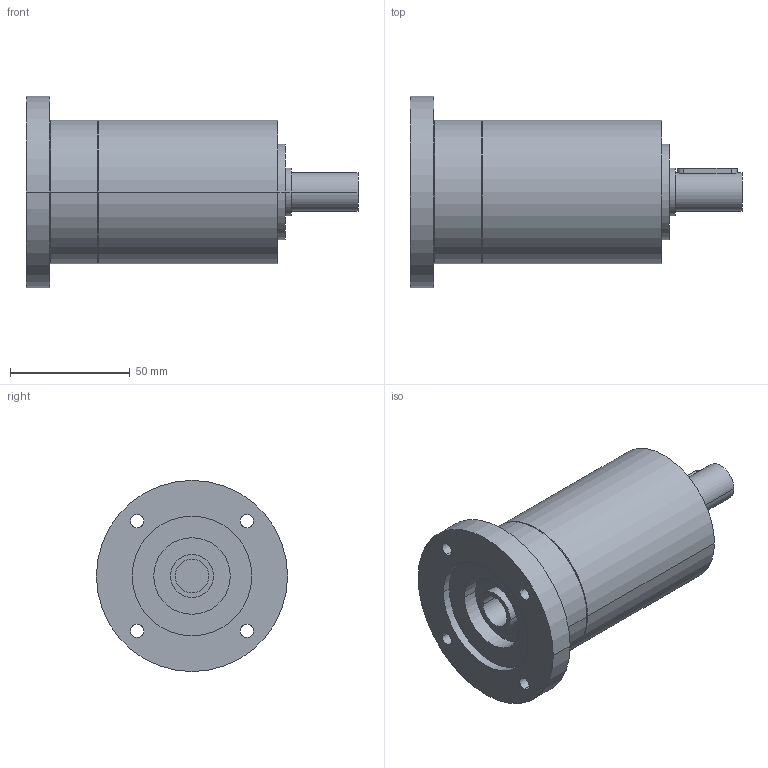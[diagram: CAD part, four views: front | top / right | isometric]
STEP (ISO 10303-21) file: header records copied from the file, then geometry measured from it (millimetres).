
FILE_DESCRIPTION(('CoCreate Modeling STEP Export'),'2;1');
FILE_NAME('GPR75_ig-9-12-16-20-24-30-36_16_B14_14_P13.stp','2014-08-25T16:45:16',(''),(''),'CoCreate Modeling STEP processor for AP214 (Solid Model)','CoCreate Modeling 16.00C 25-Feb-2009 (C) Parametric Technology GmbH','');
FILE_SCHEMA(('AUTOMOTIVE_DESIGN { 1 0 10303 214 1 1 1 1 }'));
Length unit declared in the file: millimetre
Products named in the file (2): GPR75_ig-9-12-16-20-24-30-36_16_B14_14_P13
Assembly tree (1 placements, depth 2):
  GPR75_ig-9-12-16-20-24-30-36_16_B14_14_P13
    GPR75_ig-9-12-16-20-24-30-36_16_B14_14_P13
Bounding box: 138.9 x 80 x 80 mm (x, y, z)
Volume: 312284.7 mm3; surface area: 37096.7 mm2
Topology: 1 solids, 1 shells, 80 faces, 215 edges, 149 vertices
Faces by surface type: cylinder 48, plane 26, cone 6
Entity records: 2105 total; most frequent: ORIENTED_EDGE 426, CARTESIAN_POINT 380, DIRECTION 274, EDGE_CURVE 213, VERTEX_POINT 149, AXIS2_PLACEMENT_3D 107, EDGE_LOOP 102, FACE_OUTER_BOUND 80
